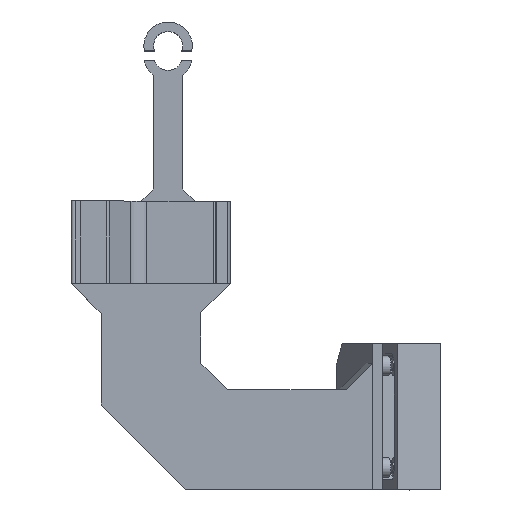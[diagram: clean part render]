
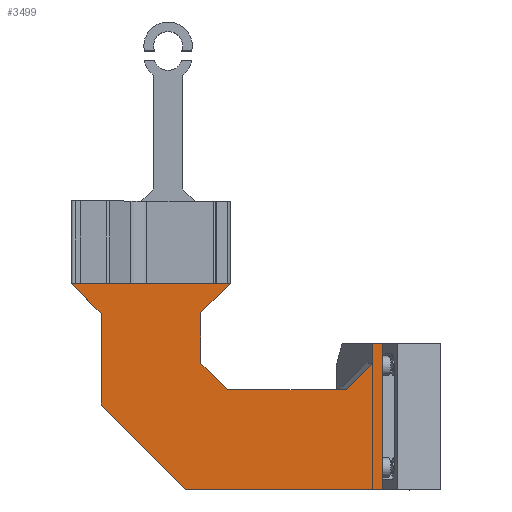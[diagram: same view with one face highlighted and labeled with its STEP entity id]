
A CAD part, top view. The second image highlights one B-rep face of the part: STEP entity #3499.
In plain terms, the highlighted planar face has unit normal (0, 0, 1).
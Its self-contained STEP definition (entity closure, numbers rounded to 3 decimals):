
#180=PLANE('',#3802);
#372=FACE_OUTER_BOUND('',#590,.T.);
#590=EDGE_LOOP('',(#3179,#3180,#3181,#3182,#3183,#3184,#3185,#3186,#3187,
#3188,#3189,#3190,#3191,#3192,#3193,#3194,#3195));
#844=LINE('',#5470,#1240);
#846=LINE('',#5475,#1242);
#848=LINE('',#5480,#1244);
#853=LINE('',#5490,#1249);
#855=LINE('',#5495,#1251);
#860=LINE('',#5503,#1256);
#861=LINE('',#5505,#1257);
#867=LINE('',#5516,#1263);
#868=LINE('',#5519,#1264);
#872=LINE('',#5527,#1268);
#874=LINE('',#5531,#1270);
#965=LINE('',#5714,#1361);
#970=LINE('',#5723,#1366);
#971=LINE('',#5725,#1367);
#972=LINE('',#5727,#1368);
#973=LINE('',#5729,#1369);
#974=LINE('',#5730,#1370);
#1240=VECTOR('',#4512,10.);
#1242=VECTOR('',#4516,10.);
#1244=VECTOR('',#4520,10.);
#1249=VECTOR('',#4527,10.);
#1251=VECTOR('',#4531,10.);
#1256=VECTOR('',#4538,10.);
#1257=VECTOR('',#4541,10.);
#1263=VECTOR('',#4549,10.);
#1264=VECTOR('',#4552,10.);
#1268=VECTOR('',#4558,10.);
#1270=VECTOR('',#4562,10.);
#1361=VECTOR('',#4711,10.);
#1366=VECTOR('',#4718,10.);
#1367=VECTOR('',#4719,10.);
#1368=VECTOR('',#4720,10.);
#1369=VECTOR('',#4721,10.);
#1370=VECTOR('',#4722,10.);
#1708=VERTEX_POINT('',#5463);
#1711=VERTEX_POINT('',#5468);
#1713=VERTEX_POINT('',#5473);
#1714=VERTEX_POINT('',#5478);
#1715=VERTEX_POINT('',#5479);
#1719=VERTEX_POINT('',#5488);
#1720=VERTEX_POINT('',#5493);
#1721=VERTEX_POINT('',#5494);
#1725=VERTEX_POINT('',#5509);
#1728=VERTEX_POINT('',#5518);
#1730=VERTEX_POINT('',#5524);
#1732=VERTEX_POINT('',#5530);
#1795=VERTEX_POINT('',#5713);
#1798=VERTEX_POINT('',#5722);
#1799=VERTEX_POINT('',#5724);
#1800=VERTEX_POINT('',#5726);
#1801=VERTEX_POINT('',#5728);
#2144=EDGE_CURVE('',#1711,#1708,#844,.T.);
#2146=EDGE_CURVE('',#1713,#1711,#846,.T.);
#2148=EDGE_CURVE('',#1714,#1715,#848,.T.);
#2153=EDGE_CURVE('',#1719,#1714,#853,.T.);
#2155=EDGE_CURVE('',#1720,#1721,#855,.T.);
#2160=EDGE_CURVE('',#1720,#1719,#860,.F.);
#2161=EDGE_CURVE('',#1708,#1721,#861,.T.);
#2167=EDGE_CURVE('',#1715,#1725,#867,.T.);
#2168=EDGE_CURVE('',#1725,#1728,#868,.T.);
#2172=EDGE_CURVE('',#1730,#1713,#872,.T.);
#2174=EDGE_CURVE('',#1732,#1730,#874,.T.);
#2265=EDGE_CURVE('',#1728,#1795,#965,.T.);
#2270=EDGE_CURVE('',#1732,#1798,#970,.F.);
#2271=EDGE_CURVE('',#1799,#1798,#971,.F.);
#2272=EDGE_CURVE('',#1800,#1799,#972,.T.);
#2273=EDGE_CURVE('',#1800,#1801,#973,.T.);
#2274=EDGE_CURVE('',#1795,#1801,#974,.T.);
#3179=ORIENTED_EDGE('',*,*,#2270,.T.);
#3180=ORIENTED_EDGE('',*,*,#2271,.F.);
#3181=ORIENTED_EDGE('',*,*,#2272,.F.);
#3182=ORIENTED_EDGE('',*,*,#2273,.T.);
#3183=ORIENTED_EDGE('',*,*,#2274,.F.);
#3184=ORIENTED_EDGE('',*,*,#2265,.F.);
#3185=ORIENTED_EDGE('',*,*,#2168,.F.);
#3186=ORIENTED_EDGE('',*,*,#2167,.F.);
#3187=ORIENTED_EDGE('',*,*,#2148,.F.);
#3188=ORIENTED_EDGE('',*,*,#2153,.F.);
#3189=ORIENTED_EDGE('',*,*,#2160,.F.);
#3190=ORIENTED_EDGE('',*,*,#2155,.T.);
#3191=ORIENTED_EDGE('',*,*,#2161,.F.);
#3192=ORIENTED_EDGE('',*,*,#2144,.F.);
#3193=ORIENTED_EDGE('',*,*,#2146,.F.);
#3194=ORIENTED_EDGE('',*,*,#2172,.F.);
#3195=ORIENTED_EDGE('',*,*,#2174,.F.);
#3499=ADVANCED_FACE('',(#372),#180,.T.);
#3802=AXIS2_PLACEMENT_3D('',#5721,#4716,#4717);
#4512=DIRECTION('',(1.,0.,0.));
#4516=DIRECTION('',(-0.707,0.707,0.));
#4520=DIRECTION('',(-0.707,-0.707,0.));
#4527=DIRECTION('',(1.,0.,0.));
#4531=DIRECTION('',(-1.,0.,0.));
#4538=DIRECTION('',(0.,1.,0.));
#4541=DIRECTION('',(0.,1.,0.));
#4549=DIRECTION('',(0.,-1.,0.));
#4552=DIRECTION('',(0.707,-0.707,0.));
#4558=DIRECTION('',(0.,1.,0.));
#4562=DIRECTION('',(-0.707,0.707,0.));
#4711=DIRECTION('',(1.,0.,0.));
#4716=DIRECTION('center_axis',(0.,0.,1.));
#4717=DIRECTION('ref_axis',(1.,0.,0.));
#4718=DIRECTION('',(-1.,0.,0.));
#4719=DIRECTION('',(0.,1.,0.));
#4720=DIRECTION('',(1.,0.,0.));
#4721=DIRECTION('',(0.,-1.,0.));
#4722=DIRECTION('',(0.719,0.695,0.));
#5463=CARTESIAN_POINT('',(7.558,0.,39.929));
#5468=CARTESIAN_POINT('',(0.008,0.,39.929));
#5470=CARTESIAN_POINT('',(16.413,0.,39.929));
#5473=CARTESIAN_POINT('',(6.188,-6.18,39.929));
#5475=CARTESIAN_POINT('',(6.884,-6.876,39.929));
#5478=CARTESIAN_POINT('',(32.818,0.,39.929));
#5479=CARTESIAN_POINT('',(26.788,-6.03,39.929));
#5480=CARTESIAN_POINT('',(25.942,-6.876,39.929));
#5488=CARTESIAN_POINT('',(25.418,0.,39.929));
#5490=CARTESIAN_POINT('',(16.413,0.,39.929));
#5493=CARTESIAN_POINT('',(25.418,17.,39.929));
#5494=CARTESIAN_POINT('',(7.558,17.,39.929));
#5495=CARTESIAN_POINT('',(20.916,17.,39.929));
#5503=CARTESIAN_POINT('',(25.418,0.,39.929));
#5505=CARTESIAN_POINT('',(7.558,0.,39.929));
#5509=CARTESIAN_POINT('',(26.788,-16.489,39.929));
#5516=CARTESIAN_POINT('',(26.788,-1.85,39.929));
#5518=CARTESIAN_POINT('',(32.288,-21.989,39.929));
#5519=CARTESIAN_POINT('',(22.372,-12.073,39.929));
#5524=CARTESIAN_POINT('',(6.188,-25.089,39.929));
#5527=CARTESIAN_POINT('',(6.188,-1.85,39.929));
#5530=CARTESIAN_POINT('',(23.688,-42.589,39.929));
#5531=CARTESIAN_POINT('',(7.772,-26.673,39.929));
#5713=CARTESIAN_POINT('',(56.614,-21.989,39.929));
#5714=CARTESIAN_POINT('',(35.918,-21.989,39.929));
#5721=CARTESIAN_POINT('Origin',(13.413,-3.7,39.929));
#5722=CARTESIAN_POINT('',(64.378,-42.589,39.929));
#5723=CARTESIAN_POINT('',(13.413,-42.589,39.929));
#5724=CARTESIAN_POINT('',(64.378,-12.389,39.929));
#5725=CARTESIAN_POINT('',(64.378,-10.495,39.929));
#5726=CARTESIAN_POINT('',(62.308,-12.389,39.929));
#5727=CARTESIAN_POINT('',(42.538,-12.389,39.929));
#5728=CARTESIAN_POINT('',(62.308,-16.489,39.929));
#5729=CARTESIAN_POINT('',(62.308,-7.245,39.929));
#5730=CARTESIAN_POINT('',(54.494,-24.036,39.929));
